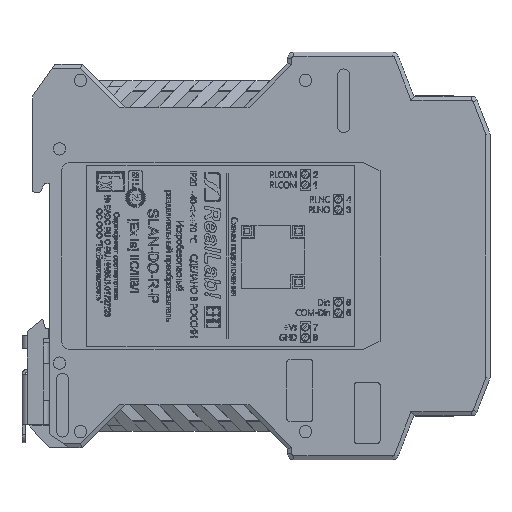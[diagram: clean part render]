
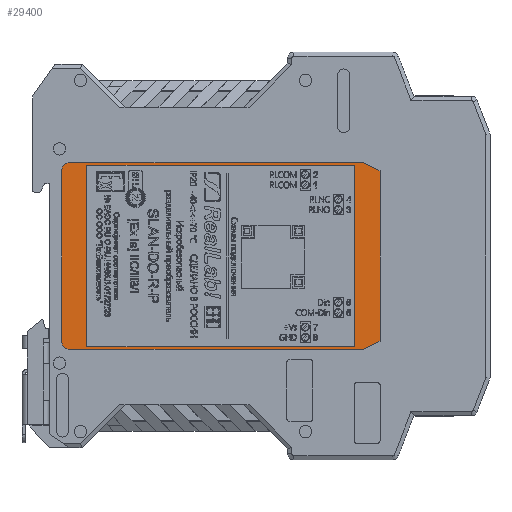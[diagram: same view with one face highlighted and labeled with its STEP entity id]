
A CAD part, front view. The second image highlights one B-rep face of the part: STEP entity #29400.
In plain terms, the highlighted planar face has unit normal (0, -1, 0).
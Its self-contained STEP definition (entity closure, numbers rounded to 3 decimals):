
#29400=ADVANCED_FACE('',(#92237,#92239),#92241,.T.);
#92237=FACE_BOUND('',#92238,.T.);
#92238=EDGE_LOOP('',(#149659,#149660,#149661,#149662,#149663,#149664,#149665,#149666));
#92239=FACE_BOUND('',#92240,.T.);
#92240=EDGE_LOOP('',(#149667,#149668,#149669,#149670));
#92241=PLANE('',#92242);
#92242=AXIS2_PLACEMENT_3D('',#92243,#92244,#92245);
#92243=CARTESIAN_POINT('',(103.85,0.2,0.));
#92244=DIRECTION('',(0.,-1.,0.));
#92245=DIRECTION('',(0.,0.,-1.));
#149659=ORIENTED_EDGE('',*,*,#193920,.T.);
#149660=ORIENTED_EDGE('',*,*,#193921,.T.);
#149661=ORIENTED_EDGE('',*,*,#193922,.T.);
#149662=ORIENTED_EDGE('',*,*,#193923,.T.);
#149663=ORIENTED_EDGE('',*,*,#193924,.T.);
#149664=ORIENTED_EDGE('',*,*,#193925,.F.);
#149665=ORIENTED_EDGE('',*,*,#193926,.T.);
#149666=ORIENTED_EDGE('',*,*,#193927,.F.);
#149667=ORIENTED_EDGE('',*,*,#187421,.T.);
#149668=ORIENTED_EDGE('',*,*,#187428,.T.);
#149669=ORIENTED_EDGE('',*,*,#187426,.T.);
#149670=ORIENTED_EDGE('',*,*,#187424,.T.);
#187421=EDGE_CURVE('',#213160,#213161,#213162,.T.);
#187424=EDGE_CURVE('',#213165,#213160,#213166,.T.);
#187426=EDGE_CURVE('',#213168,#213165,#213169,.T.);
#187428=EDGE_CURVE('',#213161,#213168,#213171,.T.);
#193920=EDGE_CURVE('',#222938,#222939,#222940,.T.);
#193921=EDGE_CURVE('',#222939,#222941,#222942,.T.);
#193922=EDGE_CURVE('',#222941,#222943,#222944,.T.);
#193923=EDGE_CURVE('',#222943,#222945,#222946,.T.);
#193924=EDGE_CURVE('',#222945,#222947,#222948,.T.);
#193925=EDGE_CURVE('',#222949,#222947,#222950,.T.);
#193926=EDGE_CURVE('',#222949,#222951,#222952,.T.);
#193927=EDGE_CURVE('',#222938,#222951,#222953,.T.);
#213160=VERTEX_POINT('',#258597);
#213161=VERTEX_POINT('',#258598);
#213162=LINE('',#258599,#258600);
#213165=VERTEX_POINT('',#258608);
#213166=LINE('',#258609,#258610);
#213168=VERTEX_POINT('',#258615);
#213169=LINE('',#258616,#258617);
#213171=LINE('',#258622,#258623);
#222938=VERTEX_POINT('',#283597);
#222939=VERTEX_POINT('',#283598);
#222940=LINE('',#283599,#283600);
#222941=VERTEX_POINT('',#283602);
#222942=LINE('',#283603,#283604);
#222943=VERTEX_POINT('',#283606);
#222944=LINE('',#283607,#283608);
#222945=VERTEX_POINT('',#283610);
#222946=LINE('',#283611,#283612);
#222947=VERTEX_POINT('',#283614);
#222948=LINE('',#283615,#283616);
#222949=VERTEX_POINT('',#283618);
#222950=CIRCLE('',#283619,2.);
#222951=VERTEX_POINT('',#283623);
#222952=LINE('',#283624,#283625);
#222953=CIRCLE('',#283627,2.);
#258597=CARTESIAN_POINT('',(74.15,0.2,22.));
#258598=CARTESIAN_POINT('',(74.15,0.2,-22.));
#258599=CARTESIAN_POINT('',(74.15,0.2,22.));
#258600=VECTOR('',#258601,1.);
#258601=DIRECTION('',(0.,0.,-1.));
#258608=CARTESIAN_POINT('',(9.15,0.2,22.));
#258609=CARTESIAN_POINT('',(9.15,0.2,22.));
#258610=VECTOR('',#258611,1.);
#258611=DIRECTION('',(1.,0.,0.));
#258615=CARTESIAN_POINT('',(9.15,0.2,-22.));
#258616=CARTESIAN_POINT('',(9.15,0.2,-22.));
#258617=VECTOR('',#258618,1.);
#258618=DIRECTION('',(0.,0.,1.));
#258622=CARTESIAN_POINT('',(74.15,0.2,-22.));
#258623=VECTOR('',#258624,1.);
#258624=DIRECTION('',(-1.,0.,0.));
#283597=CARTESIAN_POINT('',(5.,0.2,-22.65));
#283598=CARTESIAN_POINT('',(76.3,0.2,-22.65));
#283599=CARTESIAN_POINT('',(5.,0.2,-22.65));
#283600=VECTOR('',#283601,1.);
#283601=DIRECTION('',(1.,0.,0.));
#283602=CARTESIAN_POINT('',(80.3,0.2,-20.65));
#283603=CARTESIAN_POINT('',(76.3,0.2,-22.65));
#283604=VECTOR('',#283605,1.);
#283605=DIRECTION('',(0.894,0.,0.447));
#283606=CARTESIAN_POINT('',(80.3,0.2,20.65));
#283607=CARTESIAN_POINT('',(80.3,0.2,-20.65));
#283608=VECTOR('',#283609,1.);
#283609=DIRECTION('',(0.,0.,1.));
#283610=CARTESIAN_POINT('',(76.3,0.2,22.65));
#283611=CARTESIAN_POINT('',(80.3,0.2,20.65));
#283612=VECTOR('',#283613,1.);
#283613=DIRECTION('',(-0.894,0.,0.447));
#283614=CARTESIAN_POINT('',(5.,0.2,22.65));
#283615=CARTESIAN_POINT('',(76.3,0.2,22.65));
#283616=VECTOR('',#283617,1.);
#283617=DIRECTION('',(-1.,0.,0.));
#283618=CARTESIAN_POINT('',(3.,0.2,20.65));
#283619=AXIS2_PLACEMENT_3D('',#283620,#283621,#283622);
#283620=CARTESIAN_POINT('',(5.,0.2,20.65));
#283621=DIRECTION('',(0.,1.,0.));
#283622=DIRECTION('',(-1.,0.,0.));
#283623=CARTESIAN_POINT('',(3.,0.2,-20.65));
#283624=CARTESIAN_POINT('',(3.,0.2,20.65));
#283625=VECTOR('',#283626,1.);
#283626=DIRECTION('',(0.,0.,-1.));
#283627=AXIS2_PLACEMENT_3D('',#283628,#283629,#283630);
#283628=CARTESIAN_POINT('',(5.,0.2,-20.65));
#283629=DIRECTION('',(0.,1.,0.));
#283630=DIRECTION('',(0.,0.,-1.));
